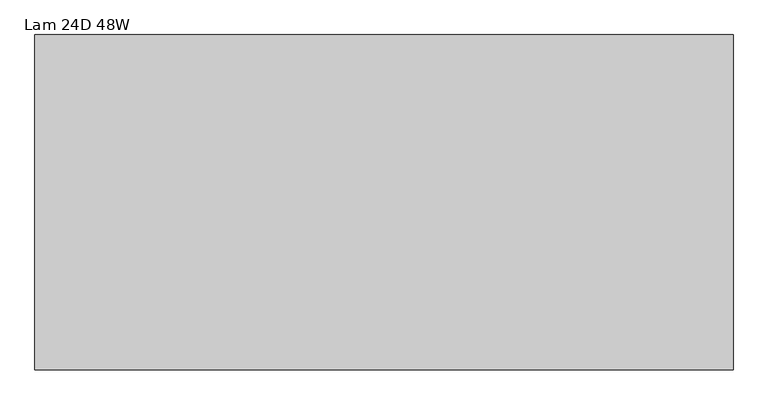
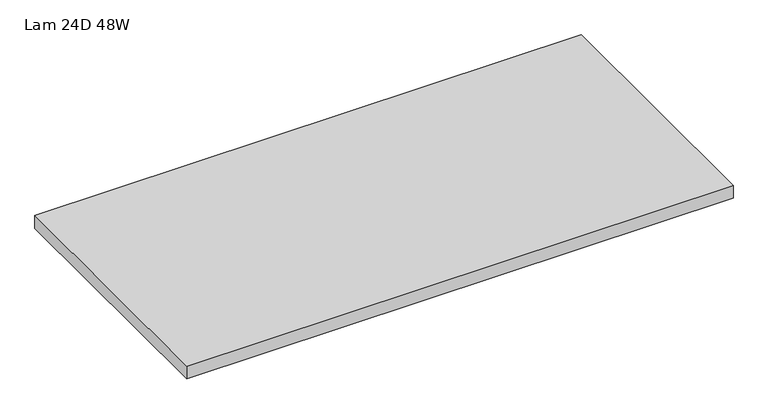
"""IFC4 building model written with IfcOpenShell, lengths in millimetres: furniture geometry, HermanMiller_Ethospace_EWS10_F_Sq-EdgeRectangularSurface_FrameAttached : Lam 24D 48W."""

from ifc_helpers import new_model, si_unit, frame, origin, place, context, project, spatial, polyline, outline, extrude, source, transform, mapped, element, save


def lam_24d_48w_cabdf88d(model_context):
    return source(origin(), model_context, "Body", "SweptSolid", [
        extrude(outline(polyline([(753.5275996, 174.6914812), (-462.6244004, 174.6914812), (-462.6244004, 758.8914812), (753.5275996, 758.8914812), (753.5275996, 174.6914812)])), frame((0.0, 0.0, 706.7296), z_axis=(0.0, 0.0, 1.0), x_axis=(1.0, 0.0, 0.0)), (0.0, 0.0, 1.0), 29.8704),
    ])


if __name__ == "__main__":
    model = new_model("IFC4")
    model_context = context("Model", 3, world=origin())
    ifc_project = project(units=[si_unit("LENGTHUNIT", "METRE", prefix="MILLI")], contexts=[model_context])
    site = spatial("IfcSite", under=ifc_project)
    building = spatial("IfcBuilding", under=site)
    placement = place(None, origin())
    lam_24d_48w_shape = lam_24d_48w_cabdf88d(model_context)
    element("IfcFurniture", 1, ObjectType="HermanMiller_Ethospace_EWS10_F_Sq-EdgeRectangularSurface_FrameAttached : Lam 24D 48W", at=placement, inside=building, context=model_context, shape_type="MappedRepresentation", body=[
        mapped(lam_24d_48w_shape, transform((0.0, 0.0, 0.0), x_axis=(1.0, 0.0, 0.0), y_axis=(0.0, 1.0, 0.0), z_axis=(0.0, 0.0, 1.0))),
    ])
    save(model, "model.ifc")
